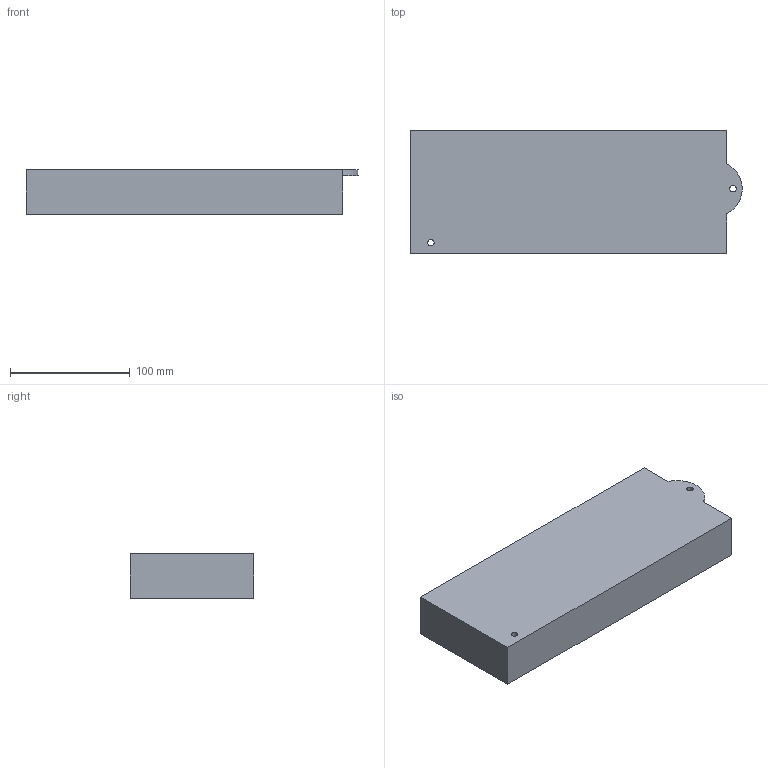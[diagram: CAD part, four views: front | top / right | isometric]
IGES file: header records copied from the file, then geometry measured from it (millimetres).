
Start section: Data from Parasolid IGES Translator 15.0.47, Copyright(c) 2006 Siemens P LM Software. All Rights Reserved.
Global section: file name: 9190609.igs; native system:  By UGS Corp.; preprocessor: XPlus GENERIC/IGES 3.0; author: Noname; organization: Noname; date: 20160706.173559; units: millimetre
Bounding box: 276.74 x 103 x 37.5 mm (x, y, z)
Surface area: 83359.4 mm2 (no closed solid volume)
Topology: 0 solids, 0 shells, 10 faces, 48 edges, 46 vertices
Faces by surface type: extrusion 7, revolution 3
